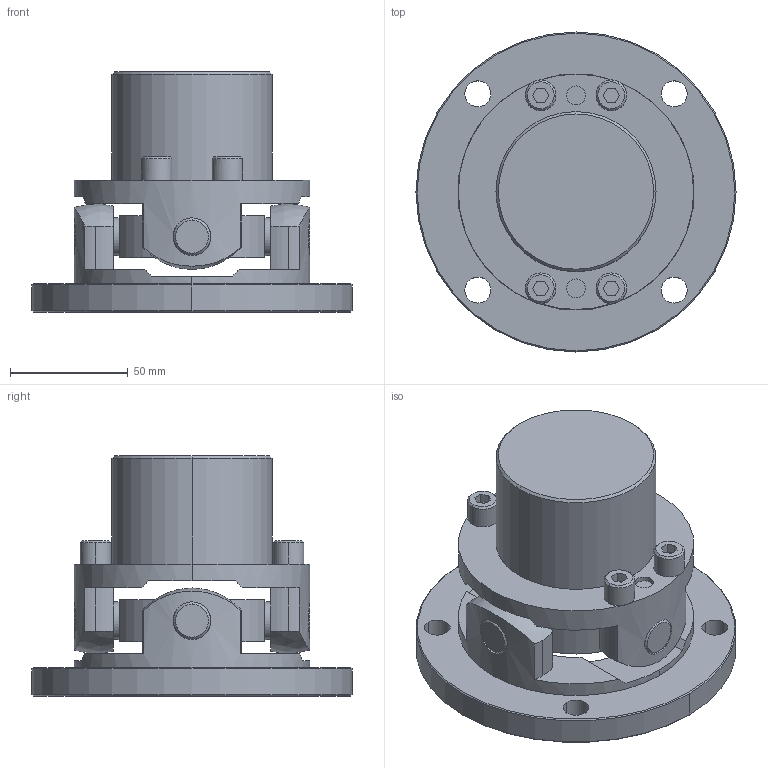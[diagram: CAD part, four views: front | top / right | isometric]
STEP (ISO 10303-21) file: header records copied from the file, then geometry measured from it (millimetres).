
FILE_DESCRIPTION((''),'2;1');
FILE_NAME('UCRF-100.stp','2013-05-13T09:33:52',(''),(''),'AutoCAD STEP 2000i','AutoCAD 2000i',', , ');
FILE_SCHEMA(('CONFIG_CONTROL_DESIGN'));
Length unit declared in the file: millimetre
Products named in the file (7): UCRF-100; 忣兜1; UCR-10002; UCNF-10002; UCN100-B020-1; UCN100-B020; UCN100-SEN
Assembly tree (6 placements, depth 2):
  UCRF-100
    忣兜1
    UCR-10002
    UCNF-10002
    UCN100-B020-1
    UCN100-B020
    UCN100-SEN
Bounding box: 136 x 136 x 102 mm (x, y, z)
Volume: 492886.2 mm3; surface area: 88303.9 mm2
Topology: 1 solids, 1 shells, 239 faces, 601 edges, 400 vertices
Faces by surface type: plane 111, cylinder 90, cone 34, sphere 4
Entity records: 7806 total; most frequent: CARTESIAN_POINT 1644, DIRECTION 1349, ORIENTED_EDGE 1188, EDGE_CURVE 594, AXIS2_PLACEMENT_3D 518, VERTEX_POINT 386, VECTOR 313, LINE 313
